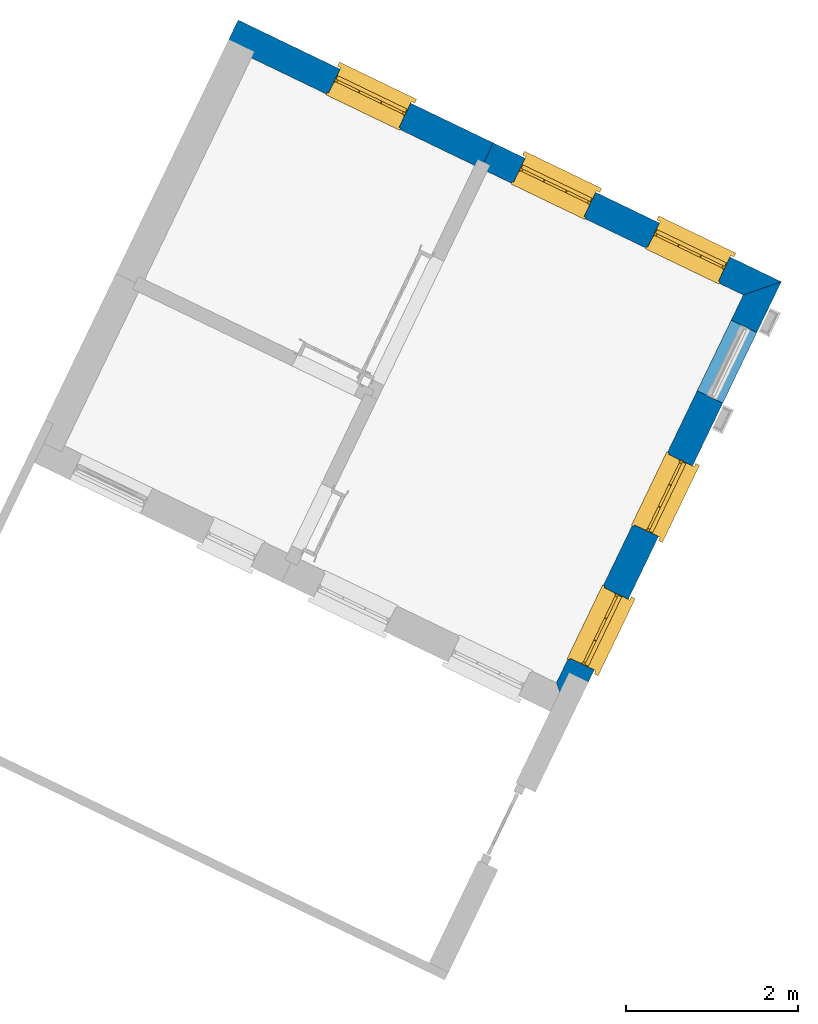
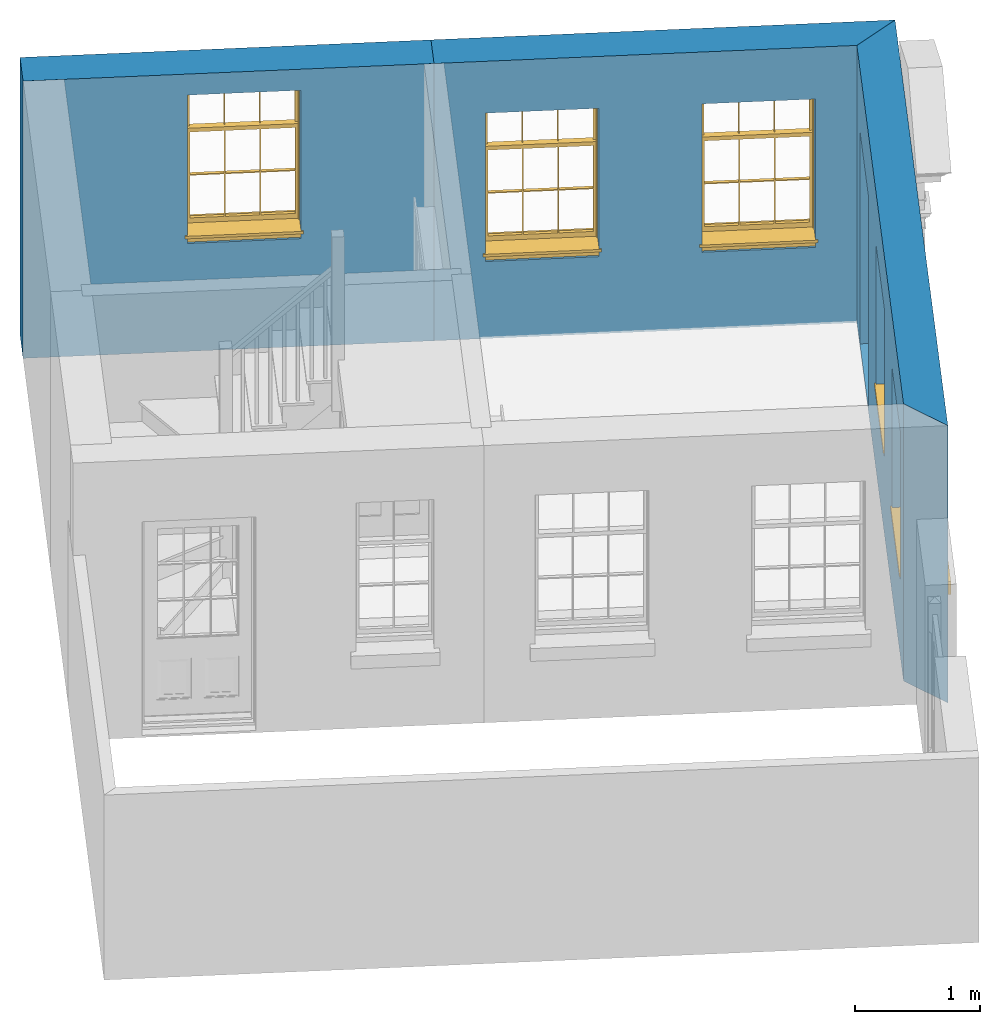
# One storey, part 4 of 5: 5 windows, 3 walls, 6 openings.
"""IFC4 building model written with IfcOpenShell, lengths in metres."""

from ifc_helpers import new_model, si_unit, frame, origin, origin_with_axes, place, context, subcontext, project, spatial, polyline, outline, extrude, faceted_brep, source, transform, mapped, material, layer, layer_set, layer_usage, type_object, type_shapes, element, fill, save


model = new_model("IFC4")

# Units and contexts
model_context = context("Model", 3, world=origin_with_axes())
body_context = subcontext(model_context, "Body", "Model", "MODEL_VIEW")
ifc_project = project(units=[si_unit("PLANEANGLEUNIT", "RADIAN"), si_unit("MASSUNIT", "GRAM", prefix="KILO"), si_unit("FORCEUNIT", "NEWTON", prefix="KILO"), si_unit("LENGTHUNIT", "METRE"), si_unit("AREAUNIT", "SQUARE_METRE"), si_unit("VOLUMEUNIT", "CUBIC_METRE")], contexts=[model_context, model_context])

# Sites, building, storey
site_1_placement = place(None, origin_with_axes())
site_1 = spatial("IfcSite", under=ifc_project, at=site_1_placement, Name="Tamar")
site_2_placement = place(site_1_placement, origin_with_axes())
site_2 = spatial("IfcSite", under=site_1, at=site_2_placement, Name="Site plot-2", CompositionType="ELEMENT")
building_placement = place(None, origin_with_axes())
building = spatial("IfcBuilding", under=site_2, at=building_placement, Name="Building plot-2", CompositionType="ELEMENT")
storey_placement = place(None, frame((0.0, 0.0, 26.0), z_axis=(0.0, 0.0, 1.0), x_axis=(1.0, 0.0, 0.0)))
storey = spatial("IfcBuildingStorey", under=building, at=storey_placement, Name="plot-2 0", CompositionType="ELEMENT", Elevation=26.0)

# Wall, openings, windows
ifc_material = material(Name="Masonry")
ifc_layer = layer(ifc_material, 0.33, ventilated=False)
ifc_layer_set = layer_set([ifc_layer], Name="exterior_0.08_0.25")
ifc_layer_usage = layer_usage(ifc_layer_set, "AXIS2", "POSITIVE", -0.25)
wall_type = type_object("IfcWallType", Name="exterior_0.08_0.25", PredefinedType="SOLIDWALL", material=ifc_layer_set)
wall_1_placement = place(storey_placement, frame((233.57279828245, 288.487166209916, 0.0), z_axis=(0.0, 0.0, 1.0), x_axis=(0.434117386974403, 0.900856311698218, 0.0)))
wall_1 = element("IfcWall", 1, at=wall_1_placement, inside=storey, type_object=wall_type, material=ifc_layer_usage, Name="exterior", context=body_context, shape_type="SweptSolid", body=[
    extrude(outline(polyline([(0.0800000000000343, 0.0800000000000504), (-0.250000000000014, -0.250000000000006), (5.40807761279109, -0.249999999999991), (5.07807761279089, 0.0800000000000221), (0.0800000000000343, 0.0800000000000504)])), origin_with_axes(), (0.0, 0.0, 1.0), 2.7),
])
opening_1_placement = place(wall_1_placement, frame((0.404679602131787, 0.0, 0.75)))
opening_1 = element("IfcOpeningElement", 2, at=opening_1_placement, cuts=wall_1, Name="My Opening", ObjectType="Opening", context=body_context, shape_type="SweptSolid", body=[
    extrude(outline(polyline([(0.0, -0.270000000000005), (0.910000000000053, -0.27), (0.910000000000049, 1.09999999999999), (-3.33066907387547e-15, 1.09999999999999), (0.0, -0.270000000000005)])), origin_with_axes(), (0.0, 0.0, 1.0), 1.445),
])
opening_2_placement = place(wall_1_placement, frame((2.12403880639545, 0.0, 0.75)))
opening_2 = element("IfcOpeningElement", 3, at=opening_2_placement, cuts=wall_1, Name="My Opening", ObjectType="Opening", context=body_context, shape_type="SweptSolid", body=[
    extrude(outline(polyline([(0.0, -0.270000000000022), (0.91000000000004, -0.269999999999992), (0.910000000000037, 1.1), (-3.10862446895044e-15, 1.09999999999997), (0.0, -0.270000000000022)])), origin_with_axes(), (0.0, 0.0, 1.0), 1.445),
])
opening_3_placement = place(wall_1_placement, frame((3.8433980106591, 0.0, 0.0199999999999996)))
element("IfcOpeningElement", 4, at=opening_3_placement, cuts=wall_1, Name="My Opening", ObjectType="Opening", context=body_context, shape_type="SweptSolid", body=[
    extrude(outline(polyline([(0.0, -0.270000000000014), (0.910000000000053, -0.270000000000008), (0.91000000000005, 1.09999999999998), (-3.10862446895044e-15, 1.09999999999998), (0.0, -0.270000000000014)])), origin_with_axes(), (0.0, 0.0, 1.0), 2.08),
])
window_type = type_object("IfcWindowType", Name="sash_shorter", PartitioningType="DOUBLE_PANEL_HORIZONTAL", PredefinedType="NOTDEFINED")
shared_shape = source(origin(), body_context, "Body", "Brep", [
    faceted_brep([(0.876875, 0.145, 0.999097), (0.876875, 0.145, 1.411875), (0.9, 0.145, 1.435), (0.033125, 0.145, 1.411875), (0.033125, 0.145, 0.999097), (0.01, 0.145, 1.435), (0.033125, 0.115, 1.411875), (0.01, 0.115, 1.435), (0.033125, 0.115, 0.999097), (0.876875, 0.115, 1.411875), (0.876875, 0.115, 0.999097), (0.9, 0.115, 1.435), (0.033125, 0.145, 0.960972), (0.01, 0.145, 0.960972), (0.033125, 0.145, 0.548195), (0.876875, 0.145, 0.960972), (0.876875, 0.145, 0.548195), (0.9, 0.145, 0.960972), (0.876875, 0.145, 0.538195), (0.876875, 0.145, 0.125417), (0.9, 0.145, 0.077167), (0.033125, 0.145, 0.125417), (0.033125, 0.145, 0.538195), (0.01, 0.145, 0.077167), (0.9, 0.115, 0.960972), (0.01, 0.115, 0.960972), (-0.0425, 0.0, 0.01), (-0.0425, -0.05, 0.001667), (0.0, 0.0, 0.01), (0.9525, 0.0, 0.01), (0.91, 0.0, 0.01), (0.9525, -0.05, 0.001667), (-0.02, 0.33, 0.077167), (0.0, 0.33, 0.077167), (-0.02, 0.36, 0.077167), (0.0, 0.19, 0.077167), (0.01, 0.19, 0.077167), (0.91, 0.19, 0.077167), (0.91, 0.33, 0.077167), (0.9, 0.19, 0.077167), (0.93, 0.33, 0.077167), (0.93, 0.36, 0.077167), (0.01, 0.145, 0.999097), (0.01, 0.175, 0.999097), (0.9, 0.145, 0.999097), (0.9, 0.175, 0.999097), (0.876875, 0.175, 0.125417), (0.876875, 0.175, 0.538195), (0.9, 0.175, 0.077167), (0.876875, 0.175, 0.548195), (0.876875, 0.175, 0.960972), (0.033125, 0.175, 0.125417), (0.01, 0.175, 0.077167), (0.033125, 0.175, 0.538195), (0.033125, 0.175, 0.960972), (0.033125, 0.175, 0.548195), (-0.02, 0.33, 0.052167), (-0.02, 0.36, 0.052167), (0.93, 0.36, 0.052167), (0.93, 0.33, 0.052167), (0.91, 0.33, 0.052167), (0.0, 0.33, 0.052167), (0.91, 0.1, 0.026667), (0.0, 0.1, 0.026667), (-0.0425, -0.05, -0.123333), (0.9525, -0.05, -0.123333), (-0.0425, 0.0, -0.123333), (0.9525, 0.0, -0.123333), (0.01, 0.19, 1.435), (0.9, 0.19, 1.435), (0.0, 0.19, 1.445), (0.91, 0.19, 1.445), (0.01, 0.1, 0.077167), (0.9, 0.1, 0.077167), (0.592292, 0.145, 0.125417), (0.592292, 0.175, 0.125417), (0.317708, 0.175, 0.125417), (0.317708, 0.145, 0.125417), (0.592292, 0.145, 0.548195), (0.317708, 0.145, 0.548195), (0.317708, 0.145, 0.538195), (0.592292, 0.145, 0.538195), (0.592292, 0.175, 0.548195), (0.317708, 0.175, 0.548195), (0.602292, 0.175, 0.548195), (0.602292, 0.145, 0.548195), (0.317708, 0.175, 0.538195), (0.307708, 0.175, 0.125417), (0.307708, 0.175, 0.538195), (0.602292, 0.175, 0.538195), (0.602292, 0.175, 0.125417), (0.592292, 0.175, 0.538195), (0.307708, 0.175, 0.548195), (0.317708, 0.175, 0.960972), (0.307708, 0.175, 0.960972), (0.602292, 0.175, 0.960972), (0.592292, 0.175, 0.960972), (0.307708, 0.145, 0.538195), (0.307708, 0.145, 0.125417), (0.307708, 0.145, 0.548195), (0.307708, 0.145, 0.960972), (0.592292, 0.145, 0.960972), (0.317708, 0.145, 0.960972), (0.602292, 0.145, 0.960972), (0.602292, 0.145, 0.538195), (0.602292, 0.145, 0.125417), (0.317708, 0.115, 1.411875), (0.307708, 0.115, 1.411875), (0.307708, 0.115, 0.999097), (0.317708, 0.115, 0.999097), (0.602292, 0.115, 1.411875), (0.592292, 0.115, 1.411875), (0.592292, 0.115, 0.999097), (0.602292, 0.115, 0.999097), (0.317708, 0.145, 0.999097), (0.307708, 0.145, 0.999097), (0.307708, 0.145, 1.411875), (0.317708, 0.145, 1.411875), (0.602292, 0.145, 0.999097), (0.592292, 0.145, 0.999097), (0.592292, 0.145, 1.411875), (0.602292, 0.145, 1.411875), (0.91, 0.1, 1.445), (0.9, 0.1, 1.435), (0.01, 0.1, 1.435), (0.0, 0.1, 1.445), (0.91, 0.0, 0.0), (0.0, 0.0, 0.0), (0.91, 0.33, 0.0), (0.0, 0.33, 0.0)], [[[0, 1, 2]], [[3, 4, 5]], [[6, 7, 8]], [[9, 10, 11]], [[12, 13, 14]], [[15, 16, 17]], [[18, 19, 20]], [[21, 22, 23]], [[24, 15, 17]], [[13, 12, 25]], [[26, 27, 28]], [[29, 30, 31]], [[32, 33, 34]], [[35, 36, 33]], [[37, 38, 39]], [[40, 41, 38]], [[42, 4, 43]], [[44, 45, 0]], [[46, 47, 48]], [[49, 50, 45]], [[51, 52, 53]], [[54, 55, 43]], [[38, 33, 36, 39]], [[41, 34, 33, 38]], [[56, 32, 34, 57]], [[57, 34, 41, 58]], [[58, 41, 40, 59]], [[57, 58, 60, 61]], [[52, 48, 39, 36]], [[62, 63, 28, 30]], [[27, 31, 30, 28]], [[27, 64, 65, 31]], [[66, 67, 65, 64]], [[2, 5, 68, 69]], [[68, 70, 71, 69]], [[20, 23, 72, 73]], [[73, 72, 63, 62]], [[74, 75, 76, 77]], [[78, 79, 80, 81]], [[78, 82, 83, 79]], [[16, 49, 84, 85]], [[86, 76, 87, 88]], [[89, 90, 75, 91]], [[92, 88, 53, 55]], [[82, 91, 86, 83]], [[93, 83, 92, 94]], [[95, 84, 82, 96]], [[89, 84, 49, 47]], [[97, 88, 87, 98]], [[22, 53, 88, 97]], [[81, 91, 75, 74]], [[80, 86, 91, 81]], [[77, 76, 86, 80]], [[99, 92, 55, 14]], [[100, 94, 92, 99]], [[101, 96, 82, 78]], [[79, 83, 93, 102]], [[85, 84, 95, 103]], [[104, 89, 47, 18]], [[105, 90, 89, 104]], [[104, 18, 16, 85]], [[80, 97, 98, 77]], [[104, 81, 74, 105]], [[103, 101, 78, 85]], [[99, 14, 22, 97]], [[102, 100, 99, 79]], [[106, 107, 108, 109]], [[110, 111, 112, 113]], [[114, 115, 116, 117]], [[118, 119, 120, 121]], [[107, 116, 115, 108]], [[111, 120, 119, 112]], [[109, 114, 117, 106]], [[113, 118, 121, 110]], [[85, 78, 81, 104]], [[84, 89, 91, 82]], [[83, 86, 88, 92]], [[79, 99, 97, 80]], [[109, 112, 119, 114]], [[102, 93, 96, 101]], [[106, 117, 120, 111]], [[98, 87, 51, 21]], [[6, 3, 116, 107]], [[110, 121, 1, 9]], [[19, 46, 90, 105]], [[26, 66, 64, 27]], [[29, 31, 65, 67]], [[25, 24, 112, 109]], [[11, 7, 106, 111]], [[75, 48, 52, 76]], [[43, 45, 96, 93]], [[45, 43, 114, 119]], [[5, 2, 120, 117]], [[24, 25, 102, 101]], [[42, 5, 4]], [[2, 44, 0]], [[49, 45, 48, 47]], [[52, 43, 55, 53]], [[14, 13, 23, 22]], [[20, 17, 16, 18]], [[24, 11, 10]], [[25, 8, 7]], [[8, 4, 3, 6]], [[9, 1, 0, 10]], [[15, 50, 49, 16]], [[18, 47, 46, 19]], [[21, 51, 53, 22]], [[14, 55, 54, 12]], [[44, 2, 69, 45]], [[68, 5, 42, 43]], [[36, 35, 70, 68]], [[39, 69, 71, 37]], [[62, 122, 123, 73]], [[63, 72, 124, 125]], [[8, 108, 115, 4]], [[113, 10, 0, 118]], [[94, 100, 12, 54]], [[17, 20, 73, 24]], [[72, 23, 13, 25]], [[52, 36, 68, 43]], [[69, 39, 48, 45]], [[11, 24, 73, 123]], [[7, 124, 72, 25]], [[23, 77, 98]], [[98, 21, 23]], [[105, 74, 20]], [[20, 19, 105]], [[20, 74, 77, 23]], [[113, 112, 24]], [[24, 10, 113]], [[25, 109, 108]], [[108, 8, 25]], [[110, 9, 11]], [[11, 111, 110]], [[7, 6, 107]], [[107, 106, 7]], [[5, 117, 116]], [[116, 3, 5]], [[121, 120, 2]], [[2, 1, 121]], [[11, 123, 124, 7]], [[122, 125, 124, 123]], [[43, 93, 94]], [[94, 54, 43]], [[96, 45, 95]], [[50, 95, 45]], [[15, 103, 95, 50]], [[48, 75, 90]], [[90, 46, 48]], [[87, 76, 52]], [[52, 51, 87]], [[103, 15, 24]], [[24, 101, 103]], [[100, 102, 25]], [[25, 12, 100]], [[115, 114, 43]], [[43, 4, 115]], [[118, 0, 45]], [[45, 119, 118]], [[71, 70, 125, 122]], [[70, 35, 63, 125]], [[122, 62, 37, 71]], [[126, 67, 66, 127]], [[60, 58, 59]], [[38, 60, 59, 40]], [[61, 56, 57]], [[32, 56, 61, 33]], [[61, 60, 128, 129]], [[62, 60, 38, 37]], [[126, 128, 60, 62]], [[33, 61, 63, 35]], [[61, 129, 127, 63]], [[128, 126, 127, 129]], [[28, 127, 66, 26]], [[63, 127, 28]], [[29, 67, 126, 30]], [[30, 126, 62]]]),
])
type_shapes(window_type, [shared_shape])
window_1_placement = place(storey_placement, frame((233.991707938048, 288.734512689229, 0.75), z_axis=(0.0, 0.0, 1.0), x_axis=(0.395046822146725, 0.819779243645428, 0.0)))
window_1 = element("IfcWindow", 5, at=window_1_placement, inside=storey, type_object=window_type, Name="living street window", OverallHeight=1.445, OverallWidth=0.91, context=body_context, shape_type="MappedRepresentation", body=[
    mapped(shared_shape, transform((0.0, 0.0, 0.0), scale=1.0)),
])
fill(opening_1, window_1)
window_2_placement = place(storey_placement, frame((234.738111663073, 290.283408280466, 0.75), z_axis=(0.0, 0.0, 1.0), x_axis=(0.395046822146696, 0.819779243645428, 0.0)))
window_2 = element("IfcWindow", 6, at=window_2_placement, inside=storey, type_object=window_type, Name="living street window", OverallHeight=1.445, OverallWidth=0.91, context=body_context, shape_type="MappedRepresentation", body=[
    mapped(shared_shape, transform((0.0, 0.0, 0.0), scale=1.0)),
])
fill(opening_2, window_2)

wall_2_placement = place(storey_placement, frame((235.812009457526, 293.133852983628, 0.0), z_axis=(0.0, 0.0, 1.0), x_axis=(-0.900856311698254, 0.434117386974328, 0.0)))
wall_2 = element("IfcWall", 7, at=wall_2_placement, inside=storey, type_object=wall_type, material=ifc_layer_usage, Name="exterior", context=body_context, shape_type="SweptSolid", body=[
    extrude(outline(polyline([(0.0800000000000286, 0.0800000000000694), (-0.250000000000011, -0.250000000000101), (3.46234567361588, -0.250000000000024), (3.46234567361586, 0.0800000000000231), (0.0800000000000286, 0.0800000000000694)])), origin_with_axes(), (0.0, 0.0, 1.0), 2.7),
])
opening_4_placement = place(wall_2_placement, frame((0.410586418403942, 0.0, 0.75)))
opening_4 = element("IfcOpeningElement", 8, at=opening_4_placement, cuts=wall_2, Name="My Opening", ObjectType="Opening", context=body_context, shape_type="SweptSolid", body=[
    extrude(outline(polyline([(0.0, -0.269999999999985), (0.910000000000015, -0.269999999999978), (0.910000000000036, 1.1), (2.03170813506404e-14, 1.1), (0.0, -0.269999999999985)])), origin_with_axes(), (0.0, 0.0, 1.0), 1.445),
])
opening_5_placement = place(wall_2_placement, frame((2.14175925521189, 0.0, 0.75)))
opening_5 = element("IfcOpeningElement", 9, at=opening_5_placement, cuts=wall_2, Name="My Opening", ObjectType="Opening", context=body_context, shape_type="SweptSolid", body=[
    extrude(outline(polyline([(0.0, -0.270000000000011), (0.910000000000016, -0.270000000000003), (0.910000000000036, 1.09999999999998), (2.08721928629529e-14, 1.09999999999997), (0.0, -0.270000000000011)])), origin_with_axes(), (0.0, 0.0, 1.0), 1.445),
])
window_3_placement = place(storey_placement, frame((235.559341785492, 293.555326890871, 0.75), z_axis=(0.0, 0.0, 1.0), x_axis=(-0.819779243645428, 0.395046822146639, 0.0)))
window_3 = element("IfcWindow", 10, at=window_3_placement, inside=storey, type_object=window_type, Name="living street window", OverallHeight=1.445, OverallWidth=0.91, context=body_context, shape_type="MappedRepresentation", body=[
    mapped(shared_shape, transform((0.0, 0.0, 0.0), scale=1.0)),
])
fill(opening_4, window_3)
window_4_placement = place(storey_placement, frame((233.999803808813, 294.306859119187, 0.75), z_axis=(0.0, 0.0, 1.0), x_axis=(-0.819779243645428, 0.395046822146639, 0.0)))
window_4 = element("IfcWindow", 11, at=window_4_placement, inside=storey, type_object=window_type, Name="living street window", OverallHeight=1.445, OverallWidth=0.91, context=body_context, shape_type="MappedRepresentation", body=[
    mapped(shared_shape, transform((0.0, 0.0, 0.0), scale=1.0)),
])
fill(opening_5, window_4)

# Wall, opening, window
wall_3_placement = place(storey_placement, frame((232.692933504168, 294.63691744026, 0.0), z_axis=(0.0, 0.0, 1.0), x_axis=(-0.900856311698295, 0.434117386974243, 0.0)))
wall_3 = element("IfcWall", 12, at=wall_3_placement, inside=storey, type_object=wall_type, material=ifc_layer_usage, Name="exterior", context=body_context, shape_type="SweptSolid", body=[
    extrude(outline(polyline([(-4.92481327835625e-16, 0.0800000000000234), (-1.04207883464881e-14, -0.250000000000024), (3.28765432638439, -0.250000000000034), (3.28765432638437, 0.0800000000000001), (-4.92481327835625e-16, 0.0800000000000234)])), origin_with_axes(), (0.0, 0.0, 1.0), 2.7),
])
opening_6_placement = place(wall_3_placement, frame((1.06382716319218, 0.0, 1.05)))
opening_6 = element("IfcOpeningElement", 13, at=opening_6_placement, cuts=wall_3, Name="My Opening", ObjectType="Opening", context=body_context, shape_type="SweptSolid", body=[
    extrude(outline(polyline([(0.0, -0.27), (0.909999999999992, -0.269999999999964), (0.909999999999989, 1.10000000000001), (-2.22044604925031e-15, 1.09999999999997), (0.0, -0.27)])), origin_with_axes(), (0.0, 0.0, 1.0), 1.445),
])
window_5_placement = place(storey_placement, frame((231.851789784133, 295.341974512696, 1.05), z_axis=(0.0, 0.0, 1.0), x_axis=(-0.819779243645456, 0.395046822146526, 0.0)))
window_5 = element("IfcWindow", 14, at=window_5_placement, inside=storey, type_object=window_type, Name="kitchen street window", OverallHeight=1.445, OverallWidth=0.91, context=body_context, shape_type="MappedRepresentation", body=[
    mapped(shared_shape, transform((0.0, 0.0, 0.0), scale=1.0)),
])
fill(opening_6, window_5)

save(model, "model.ifc")
